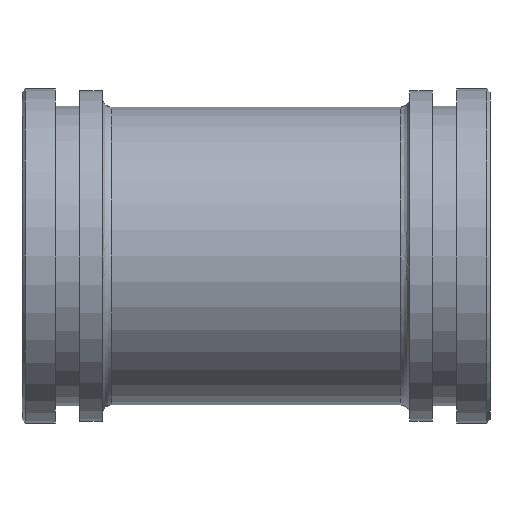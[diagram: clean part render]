
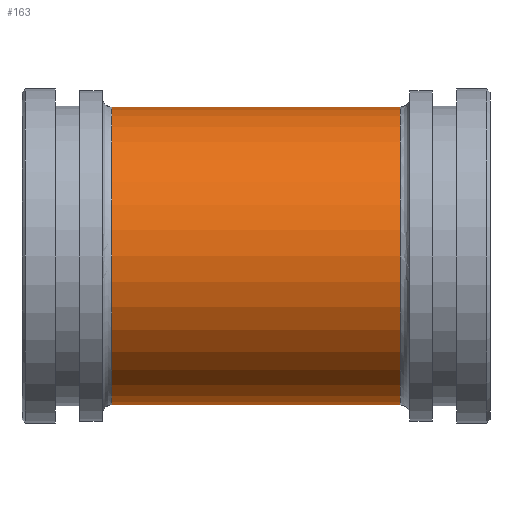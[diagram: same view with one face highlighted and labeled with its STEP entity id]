
A CAD part, front view. The second image highlights one B-rep face of the part: STEP entity #163.
In plain terms, the highlighted cylindrical face has radius 22.25 mm (diameter 44.5 mm), a full revolution.
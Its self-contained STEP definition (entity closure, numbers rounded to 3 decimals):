
#121=CARTESIAN_POINT('',(21.6,22.25,0.0));
#122=VERTEX_POINT('',#121);
#123=CARTESIAN_POINT('',(21.6,0.0,0.0));
#124=DIRECTION('',(1.0,0.0,0.0));
#125=DIRECTION('',(0.0,-1.0,0.0));
#126=AXIS2_PLACEMENT_3D('',#123,#124,#125);
#127=CIRCLE('',#126,22.25);
#128=EDGE_CURVE('',#122,#122,#127,.T.);
#144=CARTESIAN_POINT('',(0.,0.0,0.0));
#145=DIRECTION('',(1.0,0.0,0.0));
#146=DIRECTION('',(0.0,1.0,0.0));
#147=AXIS2_PLACEMENT_3D('',#144,#145,#146);
#148=CYLINDRICAL_SURFACE('',#147,22.25);
#149=CARTESIAN_POINT('',(-21.6,22.25,0.));
#150=VERTEX_POINT('',#149);
#151=CARTESIAN_POINT('',(-21.6,0.0,0.0));
#152=DIRECTION('',(-1.0,0.0,0.0));
#153=DIRECTION('',(0.0,-1.0,0.0));
#154=AXIS2_PLACEMENT_3D('',#151,#152,#153);
#155=CIRCLE('',#154,22.25);
#156=EDGE_CURVE('',#150,#150,#155,.T.);
#157=ORIENTED_EDGE('',*,*,#156,.F.);
#158=EDGE_LOOP('',(#157));
#159=FACE_OUTER_BOUND('',#158,.T.);
#160=ORIENTED_EDGE('',*,*,#128,.F.);
#161=EDGE_LOOP('',(#160));
#162=FACE_BOUND('',#161,.T.);
#163=ADVANCED_FACE('',(#159,#162),#148,.T.);
